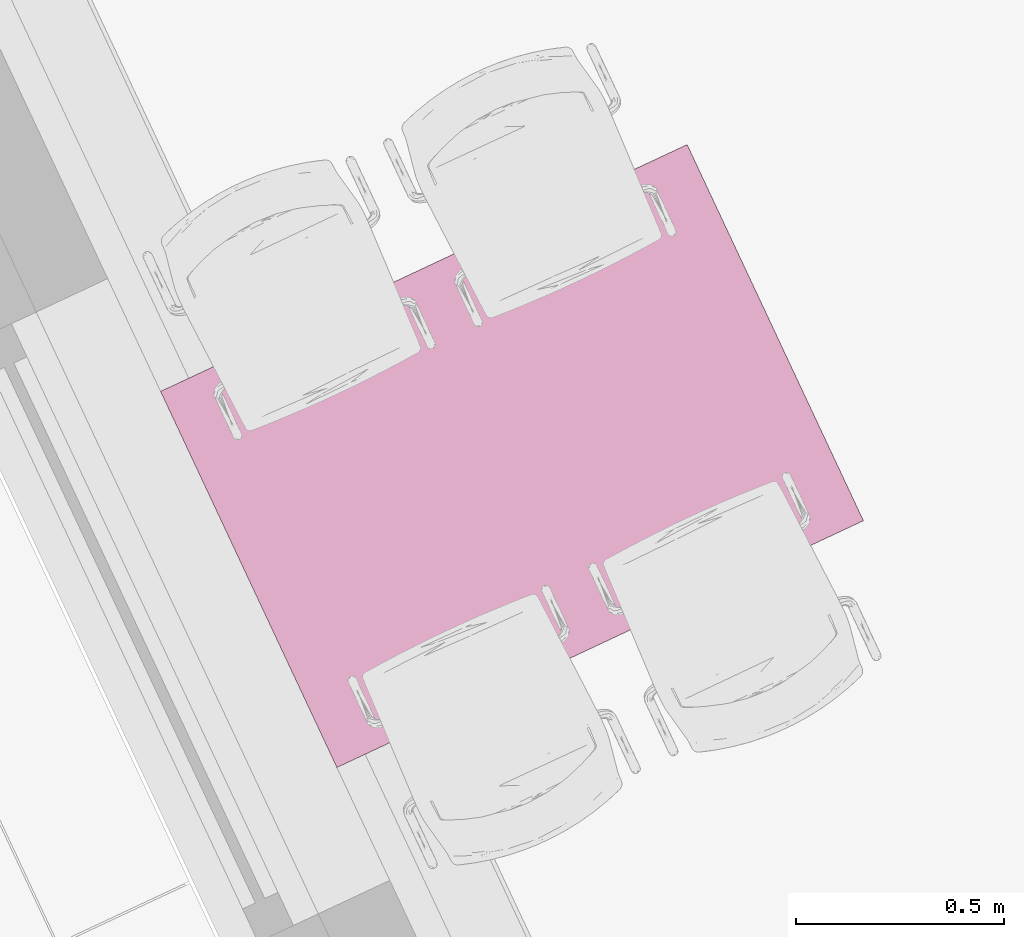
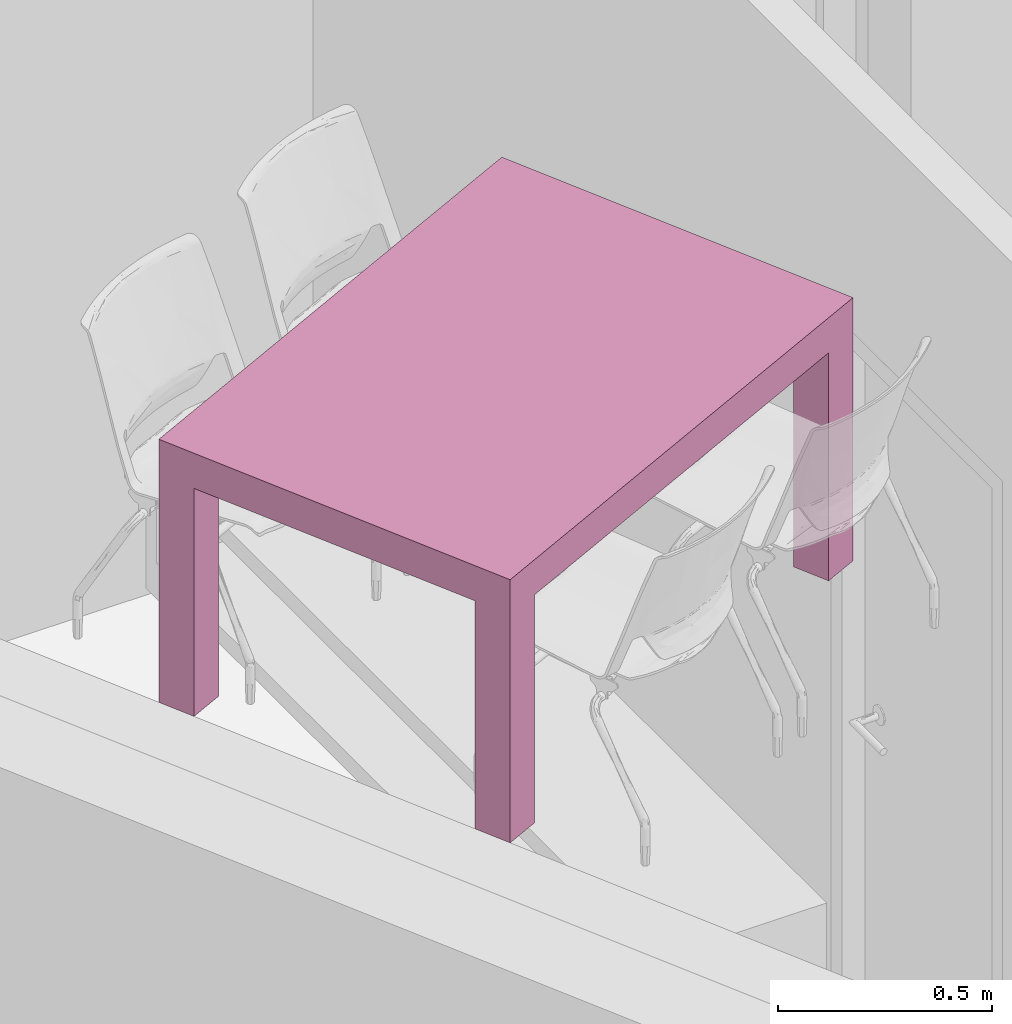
# One storey, part 64 of 125: 1 furnishing.
"""IFC2X3 building model written with IfcOpenShell, lengths in millimetres."""

from ifc_helpers import new_model, entity, si_unit, converted_unit, direction, frame, origin, place, context, subcontext, project, spatial, faceted_brep, source, transform, mapped, material, type_object, type_shapes, element, save


model = new_model("IFC2X3")

# Units and contexts
model_context = context("Model", 3, precision=0.01, world=origin(), true_north=direction((6.123233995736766e-17, 1.0)))
plan_context = context("Plan", 3, precision=0.01, world=origin(), true_north=direction((6.123233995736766e-17, 1.0)))
body_context = subcontext(model_context, "Body", "Model", "MODEL_VIEW")
ifc_project = project(units=[si_unit("LENGTHUNIT", "METRE", prefix="MILLI"), converted_unit("PLANEANGLEUNIT", "DEGREE", entity("IfcPlaneAngleMeasure", 0.017453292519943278), si_unit("PLANEANGLEUNIT", "RADIAN"), dimensions=[0, 0, 0, 0, 0, 0, 0]), si_unit("AREAUNIT", "SQUARE_METRE")], contexts=[model_context, plan_context])

# Site, building, storey, space
site_placement = place(None, origin())
site = spatial("IfcSite", under=ifc_project, at=site_placement, Name="Default", CompositionType="ELEMENT")
building_placement = place(site_placement, origin())
building = spatial("IfcBuilding", under=site, at=building_placement, CompositionType="ELEMENT")
storey_placement = place(building_placement, frame((0.0, 0.0, 3125.0)))
storey = spatial("IfcBuildingStorey", under=building, at=storey_placement, Name="2K", CompositionType="ELEMENT", Elevation=3125.0)
space_placement = place(storey_placement, origin())
space = spatial("IfcSpace", under=storey, at=space_placement, Name="2-1.2", CompositionType="ELEMENT", InteriorOrExteriorSpace="INTERNAL")

# Furnishing
ifc_material = material(Name="<Unnamed>")
furniture_type = type_object("IfcFurnitureType", Name="HR_Furniture_Table_Generic_v2016-02-11:1600x1000", AssemblyPlace="NOTDEFINED", material=ifc_material)
shared_shape = source(origin(), body_context, "Body", "Brep", [
    faceted_brep([(-500.0, -600.0, 0.0), (-400.0, -600.0, 0.0), (-400.0, -700.0, 0.0), (-500.0, -700.0, 0.0), (-400.0, 700.0, 0.0), (-500.0, 700.0, 0.0), (-500.0, 700.0, 750.0), (500.0, 700.0, 750.0), (500.0, 700.0, 0.0), (400.0, 700.0, 0.0), (400.0, 700.0, 650.0), (-400.0, 700.0, 650.0), (-500.0, 600.0, 0.0), (-500.0, 600.0, 650.0), (-500.0, -600.0, 650.0), (-500.0, -700.0, 750.0), (-400.0, 600.0, 0.0), (-400.0, 600.0, 650.0), (400.0, 600.0, 0.0), (400.0, 600.0, 650.0), (500.0, 600.0, 0.0), (500.0, 600.0, 650.0), (500.0, -700.0, 750.0), (500.0, -700.0, 0.0), (500.0, -600.0, 0.0), (500.0, -600.0, 650.0), (400.0, -600.0, 0.0), (400.0, -600.0, 650.0), (400.0, -700.0, 0.0), (400.0, -700.0, 650.0), (-400.0, -700.0, 650.0), (-400.0, -600.0, 650.0)], [[[0, 1, 2, 3]], [[4, 5, 6, 7, 8, 9, 10, 11]], [[6, 5, 12, 13, 14, 0, 3, 15]], [[12, 16, 17, 13]], [[16, 4, 11, 17]], [[9, 18, 19, 10]], [[18, 20, 21, 19]], [[20, 8, 7, 22, 23, 24, 25, 21]], [[24, 26, 27, 25]], [[26, 28, 29, 27]], [[28, 23, 22, 15, 3, 2, 30, 29]], [[2, 1, 31, 30]], [[1, 0, 14, 31]], [[7, 6, 15, 22]], [[11, 10, 19, 21, 25, 27, 29, 30, 31, 14, 13, 17]], [[4, 16, 12, 5]], [[8, 20, 18, 9]], [[24, 23, 28, 26]]]),
])
type_shapes(furniture_type, [shared_shape])
furnishing_placement = place(space_placement, frame((-2262.102581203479, 10905.325238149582, 3170.0), z_axis=(0.0, 0.0, 1.0), x_axis=(0.4244338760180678, -0.905458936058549, 0.0)))
element("IfcFurnishingElement", 1, at=furnishing_placement, inside=space, type_object=furniture_type, material=ifc_material, Name="HR_Furniture_Table_Generic_v2016-02-11:1600x1000", ObjectType="HR_Furniture_Table_Generic_v2016-02-11:1600x1000", context=body_context, shape_type="MappedRepresentation", body=[
    mapped(shared_shape, transform((0.0, 0.0, 0.0), scale=1.0)),
])

save(model, "model.ifc")
